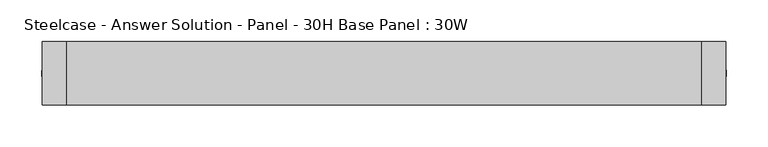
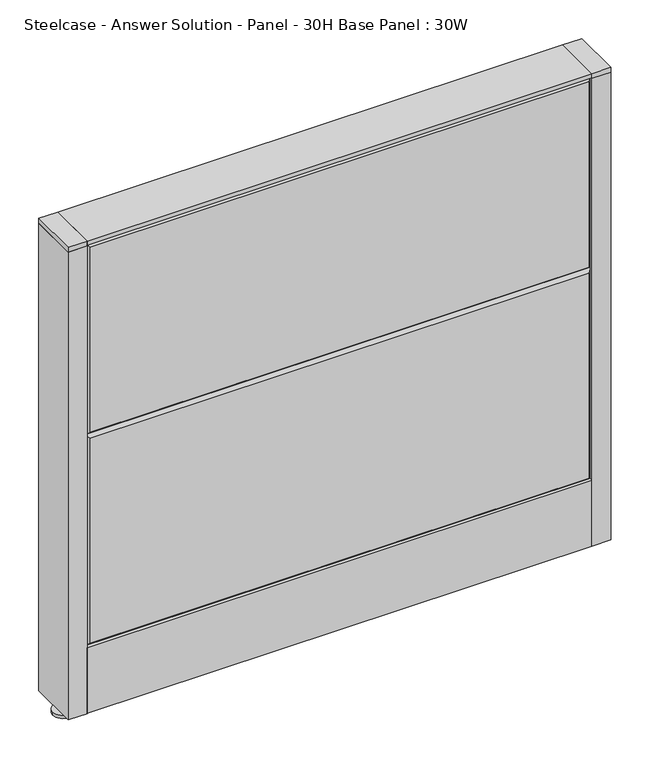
"""IFC4 building model written with IfcOpenShell, lengths in millimetres: furniture geometry, Steelcase - Answer Solution - Panel - 30H Base Panel : 30W."""

from ifc_helpers import new_model, si_unit, point, frame, frame_2d, origin, place, context, project, spatial, polyline, circle_curve, trimmed, segment, composite_curve, outline, extrude, faceted_brep, source, transform, mapped, element, save


def steelcase_answer_solution_panel_30h_base_panel_30w_f107f498(model_context):
    return source(origin(), model_context, "Body", "SolidModel", [
        extrude(outline(composite_curve([segment(trimmed(circle_curve(frame_2d((395.224, 0.0320214)), 5.08), [point((400.304, 0.0320214))], [point((390.144, 0.0320214))], False, "CARTESIAN"), True, "CONTINUOUS"), segment(trimmed(circle_curve(frame_2d((395.224, 0.0320214)), 5.08), [point((390.144, 0.0320214))], [point((400.304, 0.0320214))], False, "CARTESIAN"), True, "CONTINUOUS")], self_intersect=False)), frame((0.0, 0.0, 5.0799671), z_axis=(0.0, 0.0, 1.0), x_axis=(1.0, 0.0, 0.0)), (0.0, 0.0, 1.0), 10.414),
        extrude(outline(composite_curve([segment(trimmed(circle_curve(frame_2d((395.224, 0.0320214)), 15.24), [point((410.464, 0.0320214))], [point((379.984, 0.0320214))], False, "CARTESIAN"), True, "CONTINUOUS"), segment(trimmed(circle_curve(frame_2d((395.224, 0.0320214)), 15.24), [point((379.984, 0.0320214))], [point((410.464, 0.0320214))], False, "CARTESIAN"), True, "CONTINUOUS")], self_intersect=False)), frame((0.0, 0.0, -3.29e-05), z_axis=(0.0, 0.0, 1.0), x_axis=(1.0, 0.0, 0.0)), (0.0, 0.0, 1.0), 5.08),
        extrude(outline(polyline([(409.575, 38.1320408), (409.575, -38.0679592), (381.0, -38.0679592), (381.0, 38.1320408), (409.575, 38.1320408)])), frame((0.0, 0.0, 761.0348), z_axis=(0.0, 0.0, 1.0), x_axis=(1.0, 0.0, 0.0)), (0.0, 0.0, 1.0), 7.3151671),
        extrude(outline(polyline([(409.575, 38.1320408), (409.575, -38.0679592), (381.0, -38.0679592), (381.0, 38.1320408), (409.575, 38.1320408)])), frame((0.0, 0.0, 15.4939671), z_axis=(0.0, 0.0, 1.0), x_axis=(1.0, 0.0, 0.0)), (0.0, 0.0, 1.0), 745.5408329),
        extrude(outline(composite_curve([segment(trimmed(circle_curve(frame_2d((-395.224, -0.0320214)), 5.08), [point((-400.304, -0.0320214))], [point((-390.144, -0.0320214))], False, "CARTESIAN"), True, "CONTINUOUS"), segment(trimmed(circle_curve(frame_2d((-395.224, -0.0320214)), 5.08), [point((-390.144, -0.0320214))], [point((-400.304, -0.0320214))], False, "CARTESIAN"), True, "CONTINUOUS")], self_intersect=False)), frame((0.0, 0.0, 5.0799671), z_axis=(0.0, 0.0, 1.0), x_axis=(1.0, 0.0, 0.0)), (0.0, 0.0, 1.0), 10.414),
        extrude(outline(composite_curve([segment(trimmed(circle_curve(frame_2d((-395.224, -0.0320214)), 15.24), [point((-410.464, -0.0320214))], [point((-379.984, -0.0320214))], False, "CARTESIAN"), True, "CONTINUOUS"), segment(trimmed(circle_curve(frame_2d((-395.224, -0.0320214)), 15.24), [point((-379.984, -0.0320214))], [point((-410.464, -0.0320214))], False, "CARTESIAN"), True, "CONTINUOUS")], self_intersect=False)), frame((0.0, 0.0, -3.29e-05), z_axis=(0.0, 0.0, 1.0), x_axis=(1.0, 0.0, 0.0)), (0.0, 0.0, 1.0), 5.08),
        extrude(outline(polyline([(-409.575, -38.1320408), (-409.575, 38.0679592), (-381.0, 38.0679592), (-381.0, -38.1320408), (-409.575, -38.1320408)])), frame((0.0, 0.0, 761.0348), z_axis=(0.0, 0.0, 1.0), x_axis=(1.0, 0.0, 0.0)), (0.0, 0.0, 1.0), 7.3151671),
        extrude(outline(polyline([(-409.575, -38.1320408), (-409.575, 38.0679592), (-381.0, 38.0679592), (-381.0, -38.1320408), (-409.575, -38.1320408)])), frame((0.0, 0.0, 15.4939671), z_axis=(0.0, 0.0, 1.0), x_axis=(1.0, 0.0, 0.0)), (0.0, 0.0, 1.0), 745.5408329),
        faceted_brep([(376.174, 38.1635011, 757.174), (376.174, 38.1635011, 462.026), (-376.174, 38.1635011, 462.026), (-376.174, 38.1635011, 757.174), (381.0, 33.3375011, 762.0), (-381.0, 33.3375011, 762.0), (-381.0, 33.3375011, 457.2), (381.0, 33.3375011, 457.2)], [[[0, 1, 2, 3]], [[4, 5, 6, 7]], [[4, 0, 3, 5]], [[5, 3, 2, 6]], [[6, 2, 1, 7]], [[7, 1, 0, 4]]]),
        faceted_brep([(376.174, 38.1635011, 452.374), (376.174, 38.1635011, 125.476), (-376.174, 38.1635011, 125.476), (-376.174, 38.1635011, 452.374), (381.0, 33.3375011, 457.2), (-381.0, 33.3375011, 457.2), (-381.0, 33.3375011, 120.65), (381.0, 33.3375011, 120.65)], [[[0, 1, 2, 3]], [[4, 5, 6, 7]], [[4, 0, 3, 5]], [[5, 3, 2, 6]], [[6, 2, 1, 7]], [[7, 1, 0, 4]]]),
        faceted_brep([(376.174, -38.1635011, 757.174), (-376.174, -38.1635011, 757.174), (-376.174, -38.1635011, 462.026), (376.174, -38.1635011, 462.026), (381.0, -33.3375011, 762.0), (381.0, -33.3375011, 457.2), (-381.0, -33.3375011, 457.2), (-381.0, -33.3375011, 762.0)], [[[0, 1, 2, 3]], [[4, 5, 6, 7]], [[4, 7, 1, 0]], [[7, 6, 2, 1]], [[6, 5, 3, 2]], [[5, 4, 0, 3]]]),
        faceted_brep([(376.174, -38.1635011, 452.374), (-376.174, -38.1635011, 452.374), (-376.174, -38.1635011, 125.476), (376.174, -38.1635011, 125.476), (381.0, -33.3375011, 457.2), (381.0, -33.3375011, 120.65), (-381.0, -33.3375011, 120.65), (-381.0, -33.3375011, 457.2)], [[[0, 1, 2, 3]], [[4, 5, 6, 7]], [[4, 7, 1, 0]], [[7, 6, 2, 1]], [[6, 5, 3, 2]], [[5, 4, 0, 3]]]),
        extrude(outline(polyline([(381.0, 38.1000194), (381.0, -38.1000194), (-381.0, -38.1000194), (-381.0, 38.1000194), (381.0, 38.1000194)])), frame((0.0, 0.0, 762.0), z_axis=(0.0, 0.0, 1.0), x_axis=(1.0, 0.0, 0.0)), (0.0, 0.0, 1.0), 6.35),
        extrude(outline(polyline([(37.3075215, 119.8575157), (25.4000011, 119.8575157), (25.4000011, 120.65), (38.1000194, 120.65), (38.1000194, 15.494), (37.3075215, 15.494), (37.3075215, 119.8575157)])), frame((-381.0, 0.0, 0.0), z_axis=(1.0, 0.0, 0.0), x_axis=(0.0, 1.0, 0.0)), (0.0, 0.0, 1.0), 762.0),
        extrude(outline(polyline([(-37.3075215, 119.8575157), (-37.3075215, 15.494), (-38.1000194, 15.494), (-38.1000194, 120.65), (-25.4000011, 120.65), (-25.4000011, 119.8575157), (-37.3075215, 119.8575157)])), frame((-381.0, 0.0, 0.0), z_axis=(1.0, 0.0, 0.0), x_axis=(0.0, 1.0, 0.0)), (0.0, 0.0, 1.0), 762.0),
    ])


if __name__ == "__main__":
    model = new_model("IFC4")
    model_context = context("Model", 3, world=origin())
    ifc_project = project(units=[si_unit("LENGTHUNIT", "METRE", prefix="MILLI")], contexts=[model_context])
    site = spatial("IfcSite", under=ifc_project)
    building = spatial("IfcBuilding", under=site)
    placement = place(None, origin())
    steelcase_answer_solution_panel_30h_base_panel_30w_shape = steelcase_answer_solution_panel_30h_base_panel_30w_f107f498(model_context)
    element("IfcFurniture", 1, ObjectType="Steelcase - Answer Solution - Panel - 30H Base Panel : 30W", at=placement, inside=building, context=model_context, shape_type="MappedRepresentation", body=[
        mapped(steelcase_answer_solution_panel_30h_base_panel_30w_shape, transform((0.0, 0.0, 0.0), x_axis=(1.0, 0.0, 0.0), y_axis=(0.0, 1.0, 0.0), z_axis=(0.0, 0.0, 1.0))),
    ])
    save(model, "model.ifc")
